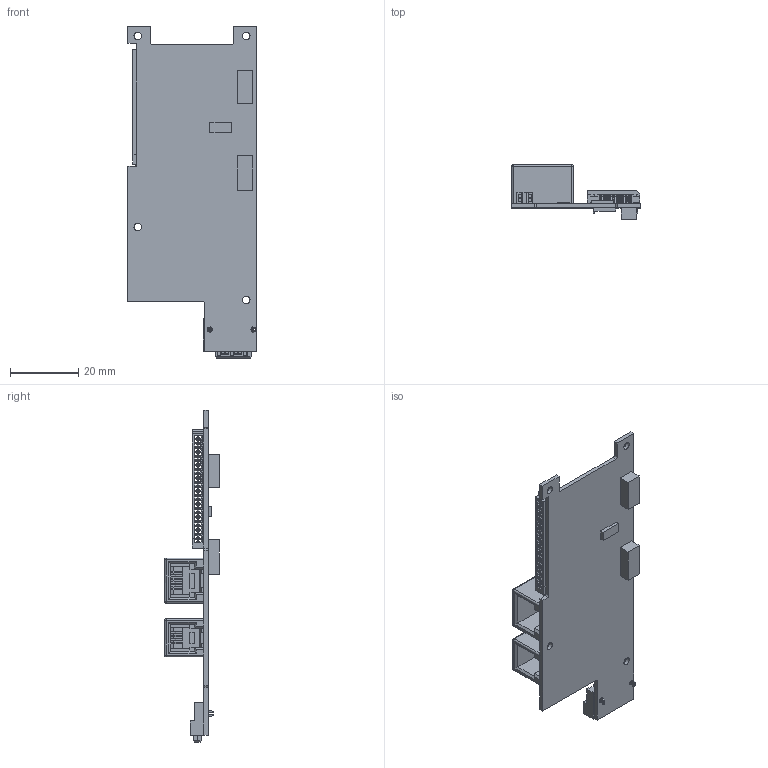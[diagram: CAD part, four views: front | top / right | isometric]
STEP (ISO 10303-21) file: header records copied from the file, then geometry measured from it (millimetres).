
FILE_DESCRIPTION(/* description */ ('VariCAD 2008 1.04 AP-203'),/* implementation_level */ '2;1');
FILE_NAME(/* name */ '0353-00-02',/* time_stamp */ '2008-06-02T23:33:52-06:00',/* author */ (''),/* organization */ (''),/* preprocessor_version */ 'ST-DEVELOPER v10',/* originating_system */ 'VariCAD 2008 1.04; kernel version (20071230)',/* authorisation */ '');
FILE_SCHEMA (('CONFIG_CONTROL_DESIGN'));
Products named in the file (1): Part
Bounding box: 37.59 x 16 x 97.12 mm (x, y, z)
Volume: 6843.8 mm3; surface area: 11654 mm2
Topology: 1 solids, 1 shells, 2863 faces, 7917 edges, 5014 vertices
Faces by surface type: plane 2555, cylinder 300, sphere 8
Entity records: 89563 total; most frequent: CARTESIAN_POINT 15924, ORIENTED_EDGE 15834, DIRECTION 14233, EDGE_CURVE 7917, LINE 7299, VECTOR 7299, VERTEX_POINT 5014, AXIS2_PLACEMENT_3D 3467
